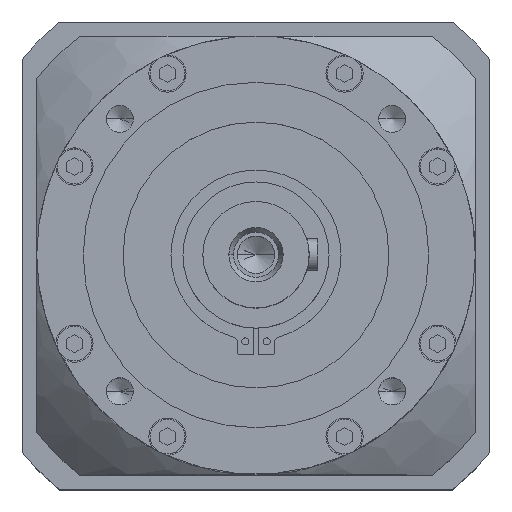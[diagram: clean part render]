
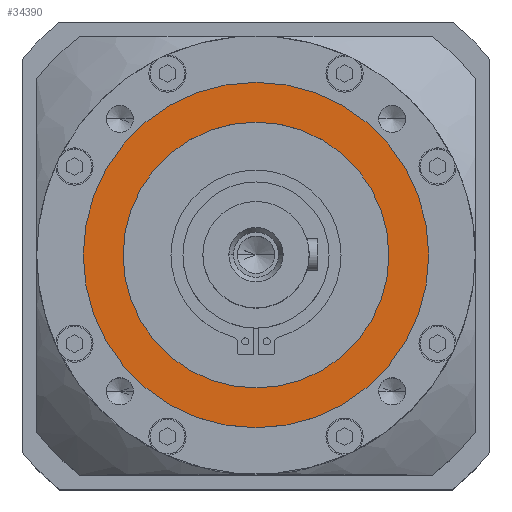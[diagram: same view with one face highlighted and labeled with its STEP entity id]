
A CAD part, top view. The second image highlights one B-rep face of the part: STEP entity #34390.
In plain terms, the highlighted planar face has unit normal (0, 0, 1).
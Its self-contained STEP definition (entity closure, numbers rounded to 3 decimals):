
#1532 = CARTESIAN_POINT ( 'NONE',  ( 0., 0., 0. ) ) ;
#2859 = AXIS2_PLACEMENT_3D ( 'NONE', #24385, #13228, #16919 ) ;
#4299 = VERTEX_POINT ( 'NONE', #35966 ) ;
#5222 = DIRECTION ( 'NONE',  ( 1., 0., 0. ) ) ;
#5834 = CARTESIAN_POINT ( 'NONE',  ( 0., 50., 0. ) ) ;
#5887 = ORIENTED_EDGE ( 'NONE', *, *, #18678, .F. ) ;
#6747 = EDGE_CURVE ( 'NONE', #35444, #40113, #13928, .T. ) ;
#7380 = VERTEX_POINT ( 'NONE', #17859 ) ;
#7409 = AXIS2_PLACEMENT_3D ( 'NONE', #16575, #16517, #16424 ) ;
#8279 = FACE_BOUND ( 'NONE', #16876, .T. ) ;
#8400 = FACE_OUTER_BOUND ( 'NONE', #17418, .T. ) ;
#9124 = AXIS2_PLACEMENT_3D ( 'NONE', #5834, #20689, #46204 ) ;
#9625 = ORIENTED_EDGE ( 'NONE', *, *, #44154, .F. ) ;
#11259 = AXIS2_PLACEMENT_3D ( 'NONE', #1532, #27422, #5222 ) ;
#13228 = DIRECTION ( 'NONE',  ( 0., 0., -1. ) ) ;
#13928 = CIRCLE ( 'NONE', #24891, 50. ) ;
#14958 = EDGE_CURVE ( 'NONE', #4299, #7380, #44192, .T. ) ;
#16424 = DIRECTION ( 'NONE',  ( 1., 0., 0. ) ) ;
#16517 = DIRECTION ( 'NONE',  ( 0., 0., 1. ) ) ;
#16575 = CARTESIAN_POINT ( 'NONE',  ( 0., 0., 0. ) ) ;
#16876 = EDGE_LOOP ( 'NONE', ( #30348, #5887 ) ) ;
#16919 = DIRECTION ( 'NONE',  ( 1., 0., 0. ) ) ;
#17418 = EDGE_LOOP ( 'NONE', ( #9625, #19595 ) ) ;
#17859 = CARTESIAN_POINT ( 'NONE',  ( 65., 0., 0. ) ) ;
#18678 = EDGE_CURVE ( 'NONE', #40113, #35444, #21827, .T. ) ;
#19595 = ORIENTED_EDGE ( 'NONE', *, *, #14958, .F. ) ;
#20689 = DIRECTION ( 'NONE',  ( 0., 0., -1. ) ) ;
#21216 = CARTESIAN_POINT ( 'NONE',  ( 50., 0., 0. ) ) ;
#21827 = CIRCLE ( 'NONE', #7409, 50. ) ;
#21916 = CIRCLE ( 'NONE', #11259, 65. ) ;
#24385 = CARTESIAN_POINT ( 'NONE',  ( 0., 0., 0. ) ) ;
#24891 = AXIS2_PLACEMENT_3D ( 'NONE', #29765, #29678, #29663 ) ;
#25083 = CARTESIAN_POINT ( 'NONE',  ( -50., 0., 0. ) ) ;
#27422 = DIRECTION ( 'NONE',  ( 0., 0., -1. ) ) ;
#29663 = DIRECTION ( 'NONE',  ( 1., 0., 0. ) ) ;
#29678 = DIRECTION ( 'NONE',  ( 0., 0., 1. ) ) ;
#29765 = CARTESIAN_POINT ( 'NONE',  ( 0., 0., 0. ) ) ;
#30348 = ORIENTED_EDGE ( 'NONE', *, *, #6747, .F. ) ;
#34390 = ADVANCED_FACE ( 'NONE', ( #8279, #8400 ), #42690, .F. ) ;
#35444 = VERTEX_POINT ( 'NONE', #21216 ) ;
#35966 = CARTESIAN_POINT ( 'NONE',  ( -65., 0., 0. ) ) ;
#40113 = VERTEX_POINT ( 'NONE', #25083 ) ;
#42690 = PLANE ( 'NONE',  #9124 ) ;
#44154 = EDGE_CURVE ( 'NONE', #7380, #4299, #21916, .T. ) ;
#44192 = CIRCLE ( 'NONE', #2859, 65. ) ;
#46204 = DIRECTION ( 'NONE',  ( -1., 0., 0. ) ) ;
